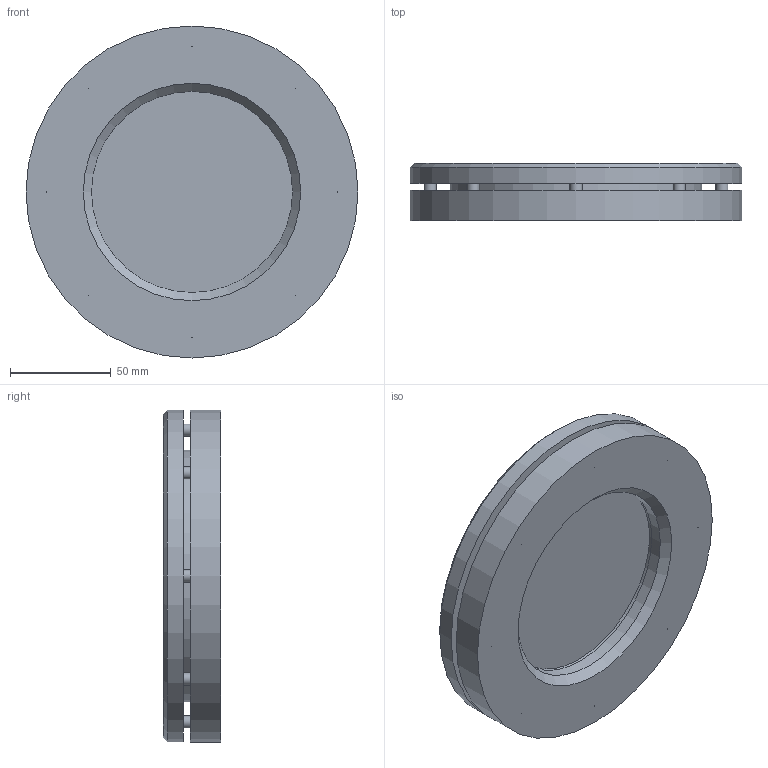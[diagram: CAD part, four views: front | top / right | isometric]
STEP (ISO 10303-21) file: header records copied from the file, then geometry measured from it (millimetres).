
FILE_DESCRIPTION(/* description */ ('Unknown'),/* implementation_level */ '2;1');
FILE_NAME(/* name */ 'Armatur 28120 drucklos DN 80',/* time_stamp */ '2016-01-18T15:35:23+01:00',/* author */ ('Unknown'),/* organization */ ('Unknown'),/* preprocessor_version */ 'ST-DEVELOPER v16.7',/* originating_system */ 'DEX',/* authorisation */ $);
FILE_SCHEMA (('CONFIG_CONTROL_DESIGN'));
Length unit declared in the file: millimetre
Products named in the file (6): 0206.232.38_01; 1346.202.38_01; 0863.176.38_01; 1775.192.38_01; 1345.202.38_01; Screw_DIN_7984_M6x16_v10.50
Assembly tree (13 placements, depth 2):
  0206.232.38_01
    1346.202.38_01
    0863.176.38_01  x2
    1775.192.38_01
    1345.202.38_01
    Screw_DIN_7984_M6x16_v10.50  x8
Bounding box: 165 x 28.5 x 165 mm (x, y, z)
Volume: 419500.8 mm3; surface area: 132059.6 mm2
Topology: 13 solids, 13 shells, 332 faces, 726 edges, 454 vertices
Faces by surface type: plane 156, cone 77, cylinder 67, torus 24, sphere 8
Full cylindrical faces by diameter (mm): 4.773 x8, 5 x8, 6 x16, 7 x8, 10 x8, 11 x8, 100 x4, 125 x1, 127 x2, 128 x2, 165 x2
Entity records: 2889 total; most frequent: CARTESIAN_POINT 487, DIRECTION 460, ORIENTED_EDGE 280, AXIS2_PLACEMENT_3D 215, EDGE_LOOP 204, FACE_BOUND 204, EDGE_CURVE 140, VERTEX_POINT 122
